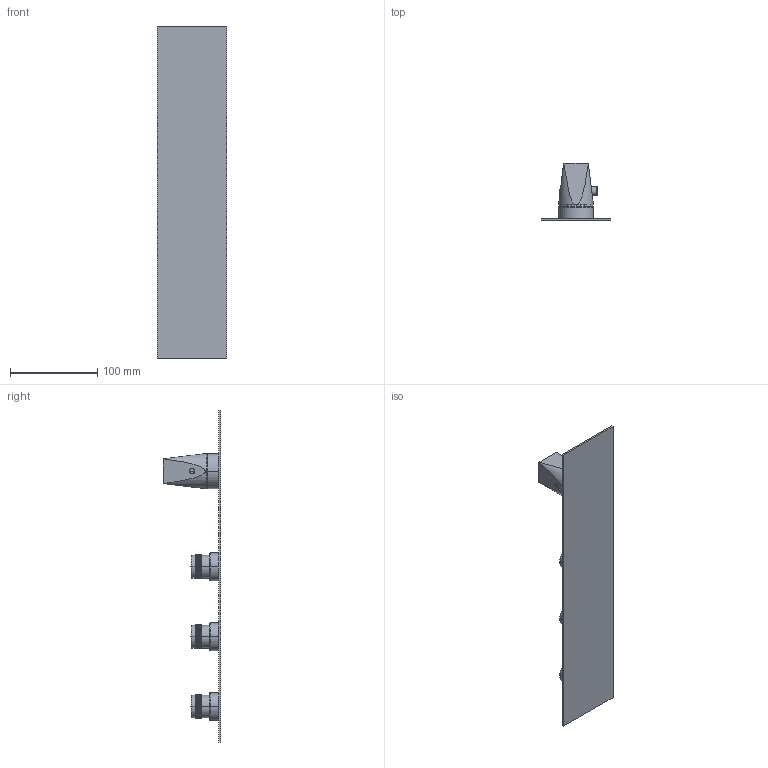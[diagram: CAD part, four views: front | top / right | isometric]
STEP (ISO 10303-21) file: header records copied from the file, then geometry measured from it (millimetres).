
FILE_DESCRIPTION((''),'2;1');
FILE_NAME('49600V321_SW0001','2023-09-21T09:38:26',('carloff'),(''),'CREO PARAMETRIC BY PTC INC, 2022014','CREO PARAMETRIC BY PTC INC, 2022014','');
FILE_SCHEMA(('CONFIG_CONTROL_DESIGN'));
Products named in the file (1): 49600V321_SW0001
Bounding box: 80 x 65.8 x 380 mm (x, y, z)
Volume: 168989.7 mm3; surface area: 86593.7 mm2
Topology: 2 solids, 2 shells, 5008 faces, 12472 edges, 8237 vertices
Faces by surface type: bspline 3840, cylinder 1083, plane 45, torus 22, cone 10, sphere 8
Entity records: 211902 total; most frequent: CARTESIAN_POINT 118852, ORIENTED_EDGE 24924, EDGE_CURVE 12462, VERTEX_POINT 8237, B_SPLINE_CURVE_WITH_KNOTS 7812, DIRECTION 7505, EDGE_LOOP 5789, FACE_OUTER_BOUND 5008
